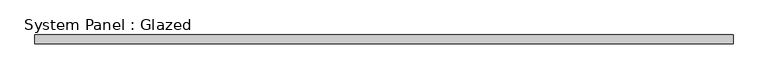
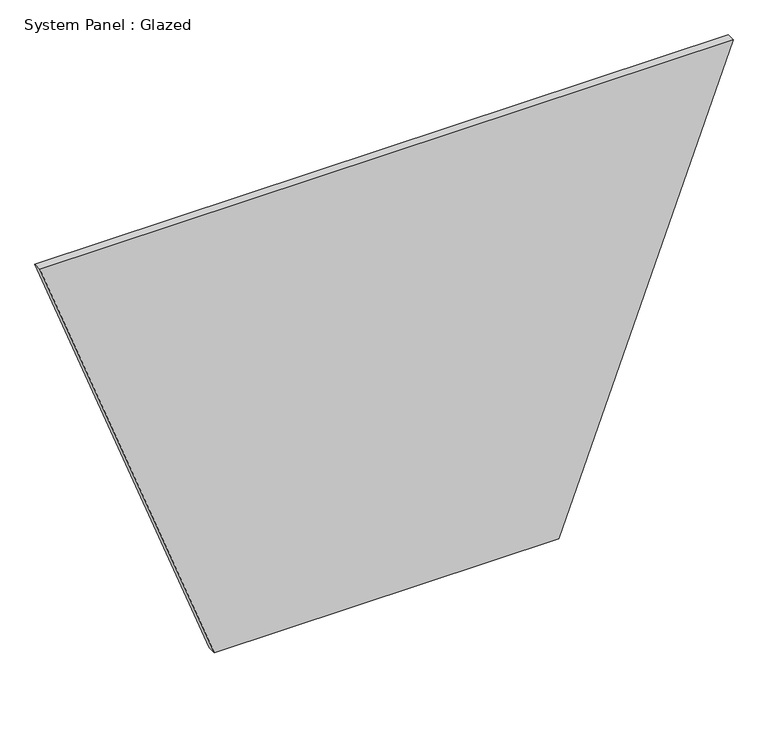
"""IFC4 building model written with IfcOpenShell, lengths in millimetres: plate geometry, System Panel : Glazed."""

import ifcopenshell
import ifcopenshell.guid

model = None  # the IFC model being written
_history = None  # IfcOwnerHistory: only IFC2X3 demands one
_inside = {}  # id of a spatial element -> (the spatial element, [elements in it])
_under = {}  # id of a project, library or spatial element -> (it, [spatial elements below it])
_declared = {}  # id of a project -> (the project, [libraries it declares])
_typed = {}  # id of a type object -> (the type object, [elements of that type])
_made_of = {}  # id of a material, layer set ... -> (it, [elements and type objects made of it])


def new_model(schema):
    """Start an empty IFC model of exactly this schema.

    Asked for "IFC4X3", IfcOpenShell would pick the latest addendum, in which some entities
    have other attributes; the version numbers below select the first issue.
    IFC2X3 requires an IfcOwnerHistory on every rooted entity: one is made here for all.
    """
    global model, _history
    if schema == "IFC4X3":
        model = ifcopenshell.file(schema_version=(4, 3, 0, 0))
    else:
        model = ifcopenshell.file(schema=schema)
    _inside.clear()
    _under.clear()
    _declared.clear()
    _typed.clear()
    _made_of.clear()
    _history = None
    if model.schema == "IFC2X3":
        org = make("IfcOrganization", Name="unknown")
        user = make(
            "IfcPersonAndOrganization",
            ThePerson=make("IfcPerson", FamilyName="unknown"),
            TheOrganization=org,
        )
        app = make(
            "IfcApplication",
            ApplicationDeveloper=org,
            Version="unknown",
            ApplicationFullName="unknown",
            ApplicationIdentifier="unknown",
        )
        _history = make(
            "IfcOwnerHistory",
            OwningUser=user,
            OwningApplication=app,
            ChangeAction="ADDED",
            CreationDate=0,
        )
    return model


def make(cls, **values):
    """One entity of the class cls with the attributes given. An attribute that is None is left unset."""
    return model.create_entity(
        cls, **{name: value for name, value in values.items() if value is not None}
    )


def rooted(cls, **values):
    """An entity with a GlobalId (a new one), such as an element, a storey or a relation."""
    return make(cls, GlobalId=ifcopenshell.guid.new(), OwnerHistory=_history, **values)


def si_unit(unit_type, name, prefix=None):
    """IfcSIUnit, for example si_unit("LENGTHUNIT", "METRE", prefix="MILLI")."""
    return make("IfcSIUnit", UnitType=unit_type, Prefix=prefix, Name=name)


def assignment(units):
    """IfcUnitAssignment: the units of a project."""
    return None if units is None else make("IfcUnitAssignment", Units=units)


def point(xyz):
    """IfcCartesianPoint."""
    return None if xyz is None else make("IfcCartesianPoint", Coordinates=xyz)


def direction(xyz):
    """IfcDirection."""
    return None if xyz is None else make("IfcDirection", DirectionRatios=xyz)


def frame(location, z_axis=None, x_axis=None):
    """IfcAxis2Placement3D, a coordinate frame: its origin and axes. An axis left out is left unset."""
    return make(
        "IfcAxis2Placement3D",
        Location=point(location),
        Axis=direction(z_axis),
        RefDirection=direction(x_axis),
    )


def origin():
    """The frame at (0, 0, 0) with its axes left unset."""
    return frame((0.0, 0.0, 0.0))


def place(relative_to, where):
    """IfcLocalPlacement: puts the frame where relative to a parent placement (None: the world)."""
    return make(
        "IfcLocalPlacement", PlacementRelTo=relative_to, RelativePlacement=where
    )


def context(
    kind, dimensions, precision=None, world=None, true_north=None, identifier=None
):
    """IfcGeometricRepresentationContext, for example the 3D "Model" context."""
    return make(
        "IfcGeometricRepresentationContext",
        ContextIdentifier=identifier,
        ContextType=kind,
        CoordinateSpaceDimension=dimensions,
        Precision=precision,
        WorldCoordinateSystem=world,
        TrueNorth=true_north,
    )


def project(units=None, contexts=None):
    """IfcProject with its units and contexts."""
    return rooted(
        "IfcProject",
        Name="project",
        RepresentationContexts=contexts,
        UnitsInContext=assignment(units),
    )


def spatial(cls, under=None, at=None, **own):
    """A site, building, storey or space (cls), placed at a placement, below another one or the project."""
    s = rooted(cls, ObjectPlacement=at, **own)
    if under is not None:
        _under.setdefault(under.id(), (under, []))[1].append(s)
    return s


def polyline(points):
    """IfcPolyline through the points."""
    return make("IfcPolyline", Points=[point(p) for p in points])


def outline(outer, holes=None, kind="AREA"):
    """IfcArbitraryClosedProfileDef: a profile drawn as a closed curve; with holes, ...WithVoids."""
    if holes is None:
        return make("IfcArbitraryClosedProfileDef", ProfileType=kind, OuterCurve=outer)
    return make(
        "IfcArbitraryProfileDefWithVoids",
        ProfileType=kind,
        OuterCurve=outer,
        InnerCurves=holes,
    )


def extrude(swept, where, along, depth):
    """IfcExtrudedAreaSolid: the profile swept, set in the frame where, extruded along a direction by depth."""
    return make(
        "IfcExtrudedAreaSolid",
        SweptArea=swept,
        Position=where,
        ExtrudedDirection=direction(along),
        Depth=depth,
    )


def shape(context_of_items, identifier, shape_type, items):
    """IfcShapeRepresentation: the items that make up one representation, for example the "Body"."""
    return make(
        "IfcShapeRepresentation",
        ContextOfItems=context_of_items,
        RepresentationIdentifier=identifier,
        RepresentationType=shape_type,
        Items=items,
    )


def source(mapping_origin, context_of_items, identifier, shape_type, items):
    """IfcRepresentationMap: a shape defined once, which mapped items show again and again."""
    return make(
        "IfcRepresentationMap",
        MappingOrigin=mapping_origin,
        MappedRepresentation=shape(context_of_items, identifier, shape_type, items),
    )


def transform(
    local_origin,
    x_axis=None,
    y_axis=None,
    z_axis=None,
    scale=None,
    scale2=None,
    scale3=None,
    uniform=True,
):
    """IfcCartesianTransformationOperator3D, or its non-uniform kind. x_axis, y_axis, z_axis: its Axis1, 2, 3."""
    if uniform:
        return make(
            "IfcCartesianTransformationOperator3D",
            Axis1=direction(x_axis),
            Axis2=direction(y_axis),
            LocalOrigin=point(local_origin),
            Scale=scale,
            Axis3=direction(z_axis),
        )
    return make(
        "IfcCartesianTransformationOperator3DnonUniform",
        Axis1=direction(x_axis),
        Axis2=direction(y_axis),
        LocalOrigin=point(local_origin),
        Scale=scale,
        Axis3=direction(z_axis),
        Scale2=scale2,
        Scale3=scale3,
    )


def mapped(mapping_source, mapping_target):
    """IfcMappedItem: shows the shape of a source again, moved by a transform."""
    return make(
        "IfcMappedItem", MappingSource=mapping_source, MappingTarget=mapping_target
    )


def made_of(thing, what):
    """Note that an element or type object is made of a material, layer set ...; save() writes the relation."""
    if what is not None:
        _made_of.setdefault(what.id(), (what, []))[1].append(thing)
    return thing


def element(
    cls,
    number,
    at=None,
    inside=None,
    cuts=None,
    type_object=None,
    material=None,
    context=None,
    identifier="Body",
    shape_type=None,
    held_by="IfcProductDefinitionShape",
    body=None,
    shapes=None,
    **own,
):
    """One element of the class cls, such as IfcWall. Its Tag is "e" and its number.

    at: its placement. inside: the storey or other place that contains it. cuts: it is an
    opening in that element (IfcRelVoidsElement). A single representation is given by context,
    identifier, shape_type and body (its items); several are given by shapes. held_by: the class
    of the entity that holds the representations. save() writes the other relations.
    """
    e = rooted(cls, Tag="e%d" % number, ObjectPlacement=at, **own)
    if body is not None:
        shapes = [shape(context, identifier, shape_type, body)]
    if shapes is not None:
        e.Representation = make(held_by, Representations=shapes)
    if inside is not None:
        _inside.setdefault(inside.id(), (inside, []))[1].append(e)
    if cuts is not None:
        rooted(
            "IfcRelVoidsElement", RelatingBuildingElement=cuts, RelatedOpeningElement=e
        )
    if type_object is not None:
        _typed.setdefault(type_object.id(), (type_object, []))[1].append(e)
    return made_of(e, material)


def aggregate(whole, parts):
    """IfcRelAggregates: a whole, such as a stair, and the parts it consists of."""
    return rooted("IfcRelAggregates", RelatingObject=whole, RelatedObjects=parts)


def save(model, path):
    """Write the relations noted so far, then the file.

    IfcRelAggregates (storeys below a building ...), IfcRelContainedInSpatialStructure (elements
    in a storey), IfcRelDefinesByType, IfcRelAssociatesMaterial and IfcRelDeclares: one each for
    every whole, place, type object, material and project.
    """
    for whole, parts in _under.values():
        aggregate(whole, parts)
    for where, things in _inside.values():
        rooted(
            "IfcRelContainedInSpatialStructure",
            RelatedElements=things,
            RelatingStructure=where,
        )
    for kind, things in _typed.values():
        rooted("IfcRelDefinesByType", RelatedObjects=things, RelatingType=kind)
    for what, things in _made_of.values():
        rooted("IfcRelAssociatesMaterial", RelatedObjects=things, RelatingMaterial=what)
    for by, libraries in _declared.values():
        rooted("IfcRelDeclares", RelatingContext=by, RelatedDefinitions=libraries)
    model.write(path)


def system_panel_glazed_ac238529(model_context):
    return source(origin(), model_context, "Body", "SweptSolid", [
        extrude(outline(polyline([(0.0, -500.0328312), (0.0, 500.0328312), (1354.949133, 1006.8014319), (1354.949133, -1006.8014319), (0.0, -500.0328312)])), frame((0.0, -49.5, 0.0), z_axis=(0.0, 1.0, 0.0), x_axis=(0.0, 0.0, 1.0)), (0.0, 0.0, 1.0), 25.0),
    ])


if __name__ == "__main__":
    model = new_model("IFC4")
    model_context = context("Model", 3, world=origin())
    ifc_project = project(units=[si_unit("LENGTHUNIT", "METRE", prefix="MILLI")], contexts=[model_context])
    site = spatial("IfcSite", under=ifc_project)
    building = spatial("IfcBuilding", under=site)
    placement = place(None, origin())
    system_panel_glazed_shape = system_panel_glazed_ac238529(model_context)
    element("IfcPlate", 1, ObjectType="System Panel : Glazed", at=placement, inside=building, context=model_context, shape_type="MappedRepresentation", body=[
        mapped(system_panel_glazed_shape, transform((0.0, 0.0, 0.0), x_axis=(1.0, 0.0, 0.0), y_axis=(0.0, 1.0, 0.0), z_axis=(0.0, 0.0, 1.0))),
    ])
    save(model, "model.ifc")
